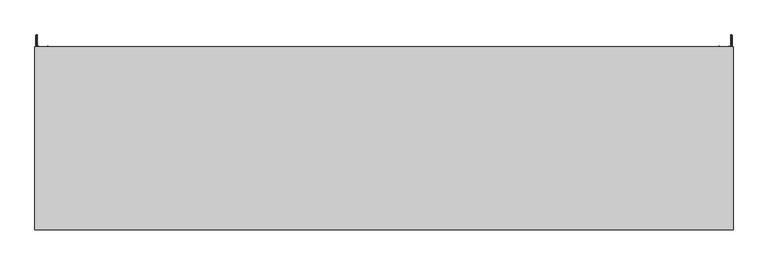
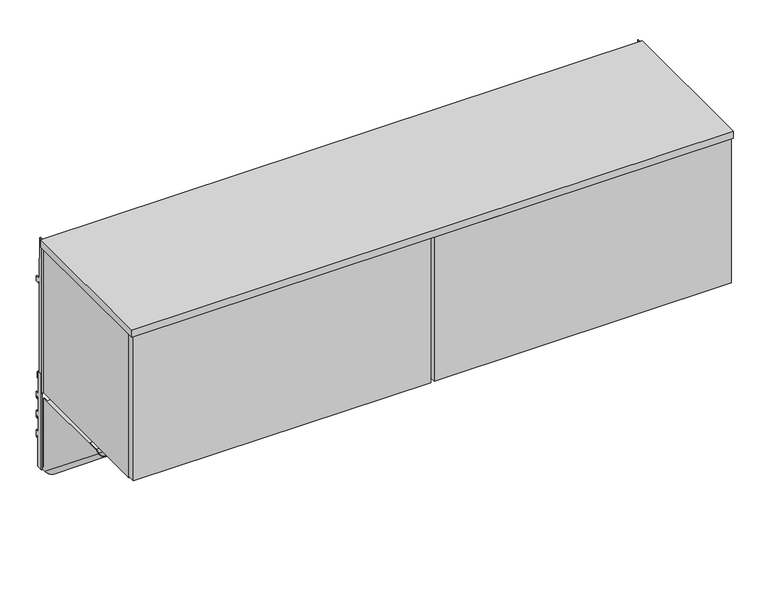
"""IFC4 building model written with IfcOpenShell, lengths in millimetres: furniture geometry, Steelcase - Universal Storage - In the Case Bin - Flat Front : For Montage - 60W."""

from ifc_helpers import new_model, si_unit, point, frame, frame_2d, origin, place, context, project, spatial, polyline, circle_curve, ellipse_curve, trimmed, segment, composite_curve, outline, extrude, faceted_brep, source, transform, mapped, element, save
from ifc_brep_helpers import plane_surface, cylinder_surface, revolved_surface, advanced_brep


def furniture_aaa12805(model_context):
    return source(origin(), model_context, "Body", "SolidModel", [
        extrude(outline(polyline([(14.7026351, 1295.4127), (14.7026351, 1236.5862384), (24.9864881, 1236.5862384), (24.9864881, 1220.7113353), (18.8396885, 1220.7113353), (18.8396885, 1227.061311), (14.7756879, 1227.061311), (14.7756879, 1186.6498969), (24.9864881, 1186.6498969), (24.9864881, 1168.3872762), (18.8396885, 1168.3872762), (18.8396885, 1174.7373246), (14.7756879, 1174.7373246), (14.7756879, 1134.3259105), (24.9864881, 1134.3259105), (24.9864881, 1116.0632897), (21.4050888, 1116.0632897), (21.4050888, 1122.4132655), (17.3410881, 1122.4132655), (17.3410881, 1040.9809), (1.1327479, 1040.9809), (1.1327479, 1295.4127), (14.7026351, 1295.4127)])), frame((2.1844, 0.0, 0.0), z_axis=(1.0, 0.0, 0.0), x_axis=(0.0, 1.0, 0.0)), (0.0, 0.0, 1.0), 1.905),
        extrude(outline(polyline([(14.7026351, 1295.4127), (14.7026351, 1236.5862384), (24.9864881, 1236.5862384), (24.9864881, 1220.7113353), (18.8396885, 1220.7113353), (18.8396885, 1227.061311), (14.7756879, 1227.061311), (14.7756879, 1186.6498969), (24.9864881, 1186.6498969), (24.9864881, 1168.3872762), (18.8396885, 1168.3872762), (18.8396885, 1174.7373246), (14.7756879, 1174.7373246), (14.7756879, 1134.3259105), (24.9864881, 1134.3259105), (24.9864881, 1116.0632897), (21.4050888, 1116.0632897), (21.4050888, 1122.4132655), (17.3410881, 1122.4132655), (17.3410881, 1040.9809), (1.1327479, 1040.9809), (1.1327479, 1295.4127), (14.7026351, 1295.4127)])), frame((1519.9106, 0.0, 0.0), z_axis=(1.0, 0.0, 0.0), x_axis=(0.0, 1.0, 0.0)), (0.0, 0.0, 1.0), 1.905),
        advanced_brep(
        [(1494.9424, -230.0833372, 1233.8431), (1494.9424, 1.1327479, 1046.6079738), (1492.8342, 1.1327479, 1046.6079738), (1492.8342, -230.0833372, 1233.8431), (1492.8342, 1.1327479, 1040.9809), (1492.8342, -7.7654502, 1040.9809), (1492.8342, -240.6555763, 1229.5716381), (1516.1006, -7.7654502, 1040.9809), (1516.1006, -240.6555763, 1229.5716381), (1516.1006, 1.1327479, 1040.9809), (1516.1006, 1.1327479, 1046.6079738), (1516.1006, -3.080512, 1050.019805), (1516.1006, -3.080512, 1233.8431), (1516.1006, -230.0833372, 1233.8431), (1513.9924009, 1.1327479, 1046.6079738), (1513.9924009, -3.080512, 1050.019805), (1513.9924009, -7.7654502, 1040.9809), (1513.9924009, -240.6555763, 1229.5716381), (1513.9924009, -230.0833372, 1233.8431), (1513.9924009, -200.311512, 1233.8431), (1513.9924009, -200.311512, 1233.0049163), (1513.9924009, -14.0787123, 1233.0049163), (1513.9924009, -14.0787123, 1233.8431), (1513.9924009, -3.080512, 1233.8431), (1513.9924009, 1.1327479, 1040.9809), (1494.9424, -7.7654502, 1040.9809), (1494.9424, -240.6555763, 1229.5716381), (1494.9424, 1.1327479, 1040.9809), (1485.0617978, -200.311512, 1233.8431), (1485.0617978, -200.311512, 1252.2581016), (1484.2236, -200.311512, 1252.2581016), (1484.2236, -200.311512, 1233.0049163), (1484.2236, -82.5825138, 1252.2581016), (1485.0617978, -82.5825138, 1252.2581016), (1485.0617978, -82.5825138, 1233.8431), (1484.2236, -82.5825138, 1233.8431), (1484.2236, -14.0787123, 1233.8431), (1484.2236, -14.0787123, 1233.0049163)],
        [
            (0, 1),
            (1, 2),
            (2, 3),
            (3, 0),
            (2, 4),
            (4, 5),
            (5, 6),
            (6, 3),
            (5, 7, ellipse_curve(frame((1504.4674, -7.7654502, 1040.9809), z_axis=(0.0, 0.0, 1.0), x_axis=(0.0, -1.0, 0.0)), 18.4853359, 11.6332)),
            (7, 8),
            (8, 6, ellipse_curve(frame((1504.4674, -240.6555763, 1229.5716381), z_axis=(0.0, 0.374606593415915, -0.9271838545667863), x_axis=(0.0, -0.9271838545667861, -0.3746065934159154)), 13.3008659, 11.6332)),
            (7, 9),
            (9, 10),
            (10, 11),
            (11, 12),
            (12, 13),
            (13, 8),
            (10, 14),
            (14, 15),
            (15, 11),
            (16, 17),
            (17, 18),
            (18, 19),
            (19, 20),
            (20, 21),
            (21, 22),
            (22, 23),
            (23, 15),
            (14, 24),
            (24, 16),
            (16, 25, ellipse_curve(frame((1504.4674005, -7.7654502, 1040.9809), z_axis=(0.0, 0.0, -1.0), x_axis=(0.0, 1.0, 0.0)), 15.135374, 9.5250005)),
            (25, 26),
            (26, 17, ellipse_curve(frame((1504.4674005, -240.6555763, 1229.5716381), z_axis=(0.0, -0.374606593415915, 0.9271838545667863), x_axis=(0.0, 0.9271838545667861, 0.3746065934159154)), 10.8904475, 9.5250005)),
            (0, 26),
            (25, 27),
            (27, 1),
            (13, 18),
            (24, 9),
            (4, 27),
            (28, 29),
            (29, 30),
            (30, 31),
            (31, 20),
            (19, 28),
            (32, 33),
            (33, 34),
            (34, 35),
            (35, 32),
            (35, 36),
            (36, 37),
            (37, 31),
            (30, 32),
            (28, 34),
            (33, 29),
            (36, 22),
            (21, 37),
            (12, 23),
        ],
        [
            plane_surface(frame((1494.9424, -241.2702093, 1242.902052), z_axis=(0.0, 0.6293204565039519, 0.7771459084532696), x_axis=(0.0, 0.7771459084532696, -0.6293204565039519))),
            plane_surface(frame((1492.8342, -241.2702093, 1242.902052), z_axis=(-1.0, 0.0, 0.0), x_axis=(0.0, 0.7771459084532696, -0.6293204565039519))),
            cylinder_surface(frame((1504.4674, 5.728998, 1030.0533094), z_axis=(0.0, -0.7771459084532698, 0.6293204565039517), x_axis=(0.0, 0.6293204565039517, 0.7771459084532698)), 11.6332),
            plane_surface(frame((1516.1006, -247.5463438, 1235.1516726), z_axis=(1.0, 0.0, 0.0), x_axis=(0.0, 0.7771459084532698, -0.6293204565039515))),
            plane_surface(frame((1516.1006, -241.2702093, 1242.902052), z_axis=(0.0, 0.6293204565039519, 0.7771459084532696), x_axis=(0.0, 0.7771459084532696, -0.6293204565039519))),
            plane_surface(frame((1513.9924009, -241.2702093, 1242.902052), z_axis=(-1.0, 0.0, 0.0), x_axis=(0.0, 0.7771459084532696, -0.6293204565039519))),
            revolved_surface(polyline([(1504.4674005, 7.3699238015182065, 1040.980900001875), (1504.4674005, -238.76446812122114, 1240.2966349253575)]), (1504.4674005, 5.728998, 1030.0533094), (0.0, 0.7771459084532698, -0.6293204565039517)),
            plane_surface(frame((1494.9424, -247.5463438, 1235.1516726), z_axis=(1.0, 0.0, 0.0), x_axis=(0.0, 0.7771459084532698, -0.6293204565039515))),
            plane_surface(frame((1524.0, -257.2236519, 1222.8777011), z_axis=(0.0, -0.374606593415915, 0.9271838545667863), x_axis=(-1.0, 0.0, 0.0))),
            plane_surface(frame((1524.0, 1.1327479, 1040.9809), z_axis=(0.0, 0.0, -1.0), x_axis=(-1.0, 0.0, 0.0))),
            plane_surface(frame((1524.0, 1.1327479, 1053.6809), z_axis=(0.0, 1.0, 0.0), x_axis=(-1.0, 0.0, 0.0))),
            plane_surface(frame((1484.2236, -200.311512, 1252.2581016), z_axis=(0.0, -1.0, 0.0), x_axis=(0.0, 0.0, -1.0))),
            plane_surface(frame((1484.2236, -82.5825138, 1252.2581016), z_axis=(0.0, 1.0, 0.0), x_axis=(0.0, 0.0, 1.0))),
            plane_surface(frame((1484.2236, -200.311512, 1252.2581016), z_axis=(-1.0, 0.0, 0.0), x_axis=(0.0, 1.0, 0.0))),
            plane_surface(frame((1485.0617978, -200.311512, 1233.8431), z_axis=(1.0, 0.0, 0.0), x_axis=(0.0, 1.0, 0.0))),
            plane_surface(frame((1485.0617978, -200.311512, 1252.2581016), z_axis=(0.0, 0.0, 1.0), x_axis=(0.0, 1.0, 0.0))),
            plane_surface(frame((1484.2236, -14.0787123, 1233.8431), z_axis=(0.0, 1.0, 0.0), x_axis=(0.0, 0.0, 1.0))),
            plane_surface(frame((1484.2236, -200.311512, 1233.0049163), z_axis=(0.0, 0.0, -1.0), x_axis=(0.0, 1.0, 0.0))),
            plane_surface(frame((1516.1006, -200.311512, 1233.8431), z_axis=(0.0, 0.0, 1.0), x_axis=(0.0, 1.0, 0.0))),
            plane_surface(frame((1516.1006, -3.080512, 1050.019805), z_axis=(0.0, 1.0, 0.0), x_axis=(-1.0, 0.0, 0.0))),
        ],
        [
            (0, [[1, 2, 3, 4]]),
            (1, [[-3, 5, 6, 7, 8]]),
            (2, [[-7, 9, 10, 11]]),
            (3, [[-10, 12, 13, 14, 15, 16, 17]]),
            (4, [[18, 19, 20, -14]]),
            (5, [[21, 22, 23, 24, 25, 26, 27, 28, -19, 29, 30]]),
            (6, [[-21, 31, 32, 33]]),
            (7, [[-1, 34, -32, 35, 36]]),
            (8, [[-4, -8, -11, -17, 37, -22, -33, -34]]),
            (9, [[38, -12, -9, -6, 39, -35, -31, -30]]),
            (10, [[-38, -29, -18, -13]]),
            (10, [[-39, -5, -2, -36]]),
            (11, [[40, 41, 42, 43, -24, 44]]),
            (12, [[45, 46, 47, 48]]),
            (13, [[-48, 49, 50, 51, -42, 52]]),
            (14, [[-40, 53, -46, 54]]),
            (15, [[-41, -54, -45, -52]]),
            (16, [[-50, 55, -26, 56]]),
            (17, [[-51, -56, -25, -43]]),
            (18, [[57, -27, -55, -49, -47, -53, -44, -23, -37, -16]]),
            (19, [[-15, -20, -28, -57]]),
        ],
    ),
        advanced_brep(
        [(8.1026, -3.080512, 1050.019805), (8.1026, -3.080512, 1233.8431), (8.1026, -14.0787123, 1233.8431), (8.1026, -14.0787123, 1233.0049163), (8.1026, -200.311512, 1233.0049163), (8.1026, -200.311512, 1233.8431), (8.1026, -230.0833372, 1233.8431), (8.1026, -240.6555763, 1229.5716381), (8.1026, -7.7654502, 1040.9809), (8.1026, 1.1327479, 1040.9809), (8.1026, 1.1327479, 1046.6079738), (5.9944, -3.080512, 1233.8431), (5.9944, -3.080512, 1050.019805), (5.9944, 1.1327479, 1046.6079738), (5.9944, 1.1327479, 1040.9809), (5.9944, -7.7654502, 1040.9809), (5.9944, -240.6555763, 1229.5716381), (5.9944, -230.0833372, 1233.8431), (39.5732022, -200.311512, 1233.8431), (39.5732022, -82.5825138, 1233.8431), (40.4114, -82.5825138, 1233.8431), (40.4114, -14.0787123, 1233.8431), (29.2608, -7.7654502, 1040.9809), (29.2608, -240.6555763, 1229.5716381), (29.2608, 1.1327479, 1040.9809), (29.2608, 1.1327479, 1046.6079738), (29.2608, -230.0833372, 1233.8431), (27.1526009, 1.1327479, 1046.6079738), (27.1526009, -230.0833372, 1233.8431), (27.1526009, 1.1327479, 1040.9809), (27.1526009, -7.7654502, 1040.9809), (27.1526009, -240.6555763, 1229.5716381), (40.4114, -200.311512, 1233.0049163), (40.4114, -200.311512, 1252.2581016), (39.5732022, -200.311512, 1252.2581016), (40.4114, -14.0787123, 1233.0049163), (40.4114, -82.5825138, 1252.2581016), (39.5732022, -82.5825138, 1252.2581016)],
        [
            (0, 1),
            (1, 2),
            (2, 3),
            (3, 4),
            (4, 5),
            (5, 6),
            (6, 7),
            (7, 8),
            (8, 9),
            (9, 10),
            (10, 0),
            (11, 12),
            (12, 13),
            (13, 14),
            (14, 15),
            (15, 16),
            (16, 17),
            (17, 11),
            (17, 6),
            (5, 18),
            (18, 19),
            (19, 20),
            (20, 21),
            (21, 2),
            (1, 11),
            (0, 12),
            (10, 13),
            (15, 22, ellipse_curve(frame((17.6276, -7.7654502, 1040.9809), z_axis=(0.0, 0.0, 1.0), x_axis=(0.0, -1.0, 0.0)), 18.4853359, 11.6332)),
            (22, 23),
            (23, 16, ellipse_curve(frame((17.6276, -240.6555763, 1229.5716381), z_axis=(0.0, 0.374606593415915, -0.9271838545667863), x_axis=(0.0, -0.9271838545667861, -0.3746065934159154)), 13.3008659, 11.6332)),
            (22, 24),
            (24, 25),
            (25, 26),
            (26, 23),
            (25, 27),
            (27, 28),
            (28, 26),
            (27, 29),
            (29, 30),
            (30, 31),
            (31, 28),
            (7, 31, ellipse_curve(frame((17.6276005, -240.6555763, 1229.5716381), z_axis=(0.0, -0.374606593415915, 0.9271838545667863), x_axis=(0.0, 0.9271838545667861, 0.3746065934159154)), 10.8904475, 9.5250005)),
            (30, 8, ellipse_curve(frame((17.6276005, -7.7654502, 1040.9809), z_axis=(0.0, 0.0, -1.0), x_axis=(0.0, 1.0, 0.0)), 15.135374, 9.5250005)),
            (14, 9),
            (29, 24),
            (4, 32),
            (32, 33),
            (33, 34),
            (34, 18),
            (21, 35),
            (35, 3),
            (35, 32),
            (20, 36),
            (36, 33),
            (19, 37),
            (37, 36),
            (37, 34),
        ],
        [
            plane_surface(frame((8.1026, -230.0833372, 1233.8431), z_axis=(1.0, 0.0, 0.0), x_axis=(0.0, -1.0, 0.0))),
            plane_surface(frame((5.9944, -230.0833372, 1233.8431), z_axis=(-1.0, 0.0, 0.0), x_axis=(0.0, 1.0, 0.0))),
            plane_surface(frame((8.1026, -3.080512, 1233.8431), z_axis=(0.0, 0.0, 1.0), x_axis=(-1.0, 0.0, 0.0))),
            plane_surface(frame((8.1026, -3.080512, 1050.019805), z_axis=(0.0, 1.0, 0.0), x_axis=(-1.0, 0.0, 0.0))),
            plane_surface(frame((8.1026, -241.2702093, 1242.902052), z_axis=(0.0, 0.6293204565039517, 0.7771459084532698), x_axis=(0.0, 0.7771459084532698, -0.6293204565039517))),
            cylinder_surface(frame((17.6276, 5.728998, 1030.0533094), z_axis=(0.0, -0.7771459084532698, 0.6293204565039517), x_axis=(1.0, 0.0, 0.0)), 11.6332),
            plane_surface(frame((29.2608, -247.5463438, 1235.1516726), z_axis=(1.0000000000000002, 0.0, 0.0), x_axis=(0.0, 0.7771459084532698, -0.6293204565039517))),
            plane_surface(frame((29.2608, -241.2702093, 1242.902052), z_axis=(0.0, 0.6293204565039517, 0.7771459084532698), x_axis=(0.0, 0.7771459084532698, -0.6293204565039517))),
            plane_surface(frame((27.1526009, -241.2702093, 1242.902052), z_axis=(-1.0000000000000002, 0.0, 0.0), x_axis=(0.0, 0.7771459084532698, -0.6293204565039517))),
            revolved_surface(polyline([(27.152601, 1.375646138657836, 1033.5785848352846), (27.152601, -244.75874578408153, 1232.8943197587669)]), (17.6276005, 5.728998, 1030.0533094), (0.0, 0.7771459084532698, -0.6293204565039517)),
            plane_surface(frame((1524.0, -257.2236519, 1222.8777011), z_axis=(0.0, -0.374606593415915, 0.9271838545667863), x_axis=(-1.0, 0.0, 0.0))),
            plane_surface(frame((1524.0, 1.1327479, 1040.9809), z_axis=(0.0, 0.0, -1.0), x_axis=(-1.0, 0.0, 0.0))),
            plane_surface(frame((1524.0, 1.1327479, 1053.6809), z_axis=(0.0, 1.0, 0.0), x_axis=(-1.0, 0.0, 0.0))),
            plane_surface(frame((10.5986151, -200.311512, 1233.8431), z_axis=(0.0, -1.0, 0.0), x_axis=(-1.0, 0.0, 0.0))),
            plane_surface(frame((10.5986151, -14.0787123, 1233.8431), z_axis=(0.0, 1.0, 0.0), x_axis=(1.0, 0.0, 0.0))),
            plane_surface(frame((8.1026, -200.311512, 1233.0049163), z_axis=(0.0, 0.0, -1.0), x_axis=(0.0, 1.0, 0.0))),
            plane_surface(frame((40.4114, -200.311512, 1233.0049163), z_axis=(1.0, 0.0, 0.0), x_axis=(0.0, 1.0, 0.0))),
            plane_surface(frame((38.1509305, -82.5825138, 1252.2581016), z_axis=(0.0, 1.0, 0.0), x_axis=(1.0, 0.0, 0.0))),
            plane_surface(frame((40.4114, -200.311512, 1252.2581016), z_axis=(0.0, 0.0, 1.0), x_axis=(0.0, 1.0, 0.0))),
            plane_surface(frame((39.5732022, -200.311512, 1252.2581016), z_axis=(-1.0, 0.0, 0.0), x_axis=(0.0, 1.0, 0.0))),
        ],
        [
            (0, [[1, 2, 3, 4, 5, 6, 7, 8, 9, 10, 11]]),
            (1, [[12, 13, 14, 15, 16, 17, 18]]),
            (2, [[-18, 19, -6, 20, 21, 22, 23, 24, -2, 25]]),
            (3, [[-1, 26, -12, -25]]),
            (4, [[-26, -11, 27, -13]]),
            (5, [[-16, 28, 29, 30]]),
            (6, [[-29, 31, 32, 33, 34]]),
            (7, [[-33, 35, 36, 37]]),
            (8, [[-36, 38, 39, 40, 41]]),
            (9, [[-8, 42, -40, 43]]),
            (10, [[-7, -19, -17, -30, -34, -37, -41, -42]]),
            (11, [[44, -9, -43, -39, 45, -31, -28, -15]]),
            (12, [[-44, -14, -27, -10]]),
            (12, [[-45, -38, -35, -32]]),
            (13, [[46, 47, 48, 49, -20, -5]]),
            (14, [[50, 51, -3, -24]]),
            (15, [[-46, -4, -51, 52]]),
            (16, [[-47, -52, -50, -23, 53, 54]]),
            (17, [[-53, -22, 55, 56]]),
            (18, [[-48, -54, -56, 57]]),
            (19, [[-49, -57, -55, -21]]),
        ],
    ),
        faceted_brep([(1505.0516023, -9.7789998, 1640.3955), (1505.0516023, -9.7789998, 1652.2572326), (1505.0516023, -10.6172003, 1652.2572326), (1505.0516023, -10.6172003, 1639.557281), (1505.0516023, -0.8382, 1639.557281), (1505.0516023, -0.8382266, 1640.3955), (17.0434001, -9.7789998, 1640.3955), (17.0434001, -0.8382, 1640.3955), (17.0434001, -0.8382011, 1639.557281), (17.0434001, -10.6172003, 1639.557281), (17.0434001, -10.6172003, 1652.2572326), (17.0434001, -9.7789998, 1652.2572326), (1507.6837557, -30.9238769, 1640.3955), (1508.5187599, -30.850824, 1640.3955), (1505.8930117, -0.8382, 1640.3955), (1519.9106, -0.8382, 1640.3955), (1519.9106, 0.1784978, 1640.3955), (2.1844, 0.1784978, 1640.3955), (2.1844, -0.8382, 1640.3955), (16.2019988, -0.8382, 1640.3955), (13.5762335, -30.850824, 1640.3955), (14.4176356, -30.850824, 1640.3955), (1519.9106, 0.1784978, 1247.9655), (1519.9106, -0.8382, 1247.9655), (1505.8930117, -0.8382, 1247.9655), (1508.5187599, -30.850824, 1247.9655), (1507.6837557, -30.9238769, 1247.9655), (1505.0516, -0.8382, 1247.9655), (17.0434002, -0.8382, 1247.9655), (14.4176356, -30.850824, 1247.9655), (13.5762335, -30.850824, 1247.9655), (16.2019988, -0.8382, 1247.9655), (2.1844, -0.8382, 1247.9655), (2.1844, 0.1784978, 1247.9655)], [[[0, 1, 2, 3, 4, 5]], [[6, 7, 8, 9, 10, 11]], [[1, 0, 6, 11]], [[2, 1, 11, 10]], [[3, 2, 10, 9]], [[4, 3, 9, 8]], [[0, 5, 12, 13, 14, 15, 16, 17, 18, 19, 20, 21, 7, 6]], [[22, 23, 24, 25, 26, 27, 28, 29, 30, 31, 32, 33]], [[17, 16, 22, 33]], [[18, 17, 33, 32]], [[19, 18, 32, 31]], [[20, 19, 31, 30]], [[21, 20, 30, 29]], [[7, 21, 29, 28, 8]], [[28, 27, 4, 8]], [[12, 5, 4, 27, 26]], [[13, 12, 26, 25]], [[14, 13, 25, 24]], [[15, 14, 24, 23]], [[16, 15, 23, 22]]]),
        faceted_brep([(1488.5415999, -61.4680004, 1256.4236903), (1488.5415999, -61.4680004, 1248.8037), (1488.5415999, -60.6298021, 1248.8037), (1488.5415999, -60.6298021, 1256.4236903), (33.5534002, -61.4680004, 1256.4236903), (33.5534002, -60.6298021, 1256.4236903), (33.5534002, -60.6298021, 1248.8037), (33.5534002, -61.468, 1248.8037), (17.0434001, -61.4680004, 1248.8037), (17.0434001, -61.4680004, 1247.9655), (1505.0516023, -61.4680004, 1247.9655), (1505.0516023, -61.4680004, 1248.8037), (1505.0516023, -0.8382, 1247.9655), (1505.0516023, -0.8382, 1248.8037), (17.0434001, -0.8382, 1248.8037), (17.0434001, -0.8382, 1247.9655)], [[[0, 1, 2, 3]], [[4, 5, 6, 7]], [[1, 0, 4, 7, 8, 9, 10, 11]], [[3, 2, 6, 5]], [[0, 3, 5, 4]], [[11, 10, 12, 13]], [[8, 14, 15, 9]], [[12, 10, 9, 15]], [[13, 12, 15, 14]], [[11, 13, 14, 8, 7, 6, 2, 1]]]),
        extrude(outline(composite_curve([segment(polyline([(-343.4401318, 1291.8437595), (-377.213238, 1291.8437595), (-377.213238, 1639.09375), (-30.850824, 1639.09375), (-30.850824, 1638.0577444), (-372.9486617, 1638.0577444)]), True, "CONTINUOUS"), segment(trimmed(circle_curve(frame_2d((-372.9486617, 1635.1839261)), 2.8738183), [point((-372.9486617, 1638.0577444))], [point((-375.82248, 1635.1839261))], True, "CARTESIAN"), True, "CONTINUOUS"), segment(polyline([(-375.82248, 1635.1839261), (-375.82248, 1292.9867129), (-343.4401318, 1292.9867129), (-343.4401318, 1291.8437595)]), True, "CONTINUOUS")], self_intersect=False)), frame((753.7266311, 0.0, 0.0), z_axis=(1.0, 0.0, 0.0), x_axis=(0.0, 1.0, 0.0)), (0.0, 0.0, 1.0), 16.5467378),
        extrude(outline(polyline([(1524.0, -399.4977324), (0.0, -399.4977324), (0.0, 0.0), (1524.0, 0.0), (1524.0, -399.4977324)])), frame((0.0, 0.0, 1639.490625), z_axis=(0.0, 0.0, 1.0), x_axis=(1.0, 0.0, 0.0)), (0.0, 0.0, 1.0), 19.05),
        extrude(outline(polyline([(4.4448587, -378.8585852), (757.428, -378.8585852), (757.428, -399.0261526), (4.4448587, -399.0261526), (4.4448587, -378.8585852)])), frame((0.0, 0.0, 1253.2134107), z_axis=(0.0, 0.0, 1.0), x_axis=(1.0, 0.0, 0.0)), (0.0, 0.0, 1.0), 386.3690475),
        extrude(outline(polyline([(766.572, -378.8585852), (1519.5703, -378.8585852), (1519.5703, -399.0261526), (766.572, -399.0261526), (766.572, -378.8585852)])), frame((0.0, 0.0, 1253.2134107), z_axis=(0.0, 0.0, 1.0), x_axis=(1.0, 0.0, 0.0)), (0.0, 0.0, 1.0), 386.3690475),
        extrude(outline(polyline([(0.0, 1657.096), (10.1677703, 1657.096), (13.3857995, 1545.8185744), (26.0095997, 1545.8185744), (26.0095997, 1532.1025512), (17.5768, 1532.1025512), (17.5768, 1537.1064608), (13.3349998, 1537.1064608), (13.3349998, 1522.6538546), (14.2747998, 1522.6538546), (14.2747998, 1296.0858527), (17.2466001, 1296.0858527), (17.2466001, 1289.7358043), (22.5806007, 1289.7358043), (22.5806007, 1274.2164027), (0.0, 1274.2164027), (0.0, 1657.096)])), frame((1518.4882, 0.0, 0.0), z_axis=(1.0, 0.0, 0.0), x_axis=(0.0, 1.0, 0.0)), (0.0, 0.0, 1.0), 1.905),
        extrude(outline(polyline([(15.875, -377.213238), (5.5118, -377.213238), (5.5118, 0.0), (15.875, 0.0), (15.875, -377.213238)])), frame((0.0, 0.0, 1247.9655), z_axis=(0.0, 0.0, 1.0), x_axis=(1.0, 0.0, 0.0)), (0.0, 0.0, 1.0), 391.2710707),
        extrude(outline(polyline([(1522.8568665, -377.213238), (1508.125, -377.213238), (1508.125, 0.0), (1522.8568665, 0.0), (1522.8568665, -377.213238)])), frame((0.0, 0.0, 1247.9655), z_axis=(0.0, 0.0, 1.0), x_axis=(1.0, 0.0, 0.0)), (0.0, 0.0, 1.0), 391.2710707),
        extrude(outline(polyline([(0.0, 1657.096), (10.1677703, 1657.096), (13.3857995, 1545.8185744), (26.0095997, 1545.8185744), (26.0095997, 1532.1025512), (17.5768, 1532.1025512), (17.5768, 1537.1064608), (13.3349998, 1537.1064608), (13.3349998, 1522.6538546), (14.2747998, 1522.6538546), (14.2747998, 1296.0858527), (17.2466001, 1296.0858527), (17.2466001, 1289.7358043), (22.5806007, 1289.7358043), (22.5806007, 1274.2164027), (0.0, 1274.2164027), (0.0, 1657.096)])), frame((3.6068, 0.0, 0.0), z_axis=(1.0, 0.0, 0.0), x_axis=(0.0, 1.0, 0.0)), (0.0, 0.0, 1.0), 1.905),
        extrude(outline(polyline([(-35.4584098, 1372.819257), (-27.0763996, 1372.819257), (-27.0763996, 1360.1191601), (-33.4264117, 1360.1191601), (-33.4264117, 1323.1622589), (-27.0763996, 1323.1622589), (-27.0763996, 1265.428), (-35.4584098, 1265.428), (-35.4584098, 1293.054213), (-46.1263996, 1293.054213), (-46.1263996, 1268.1875622), (-59.9694137, 1268.1875622), (-59.9694137, 1294.8575912), (-332.8542818, 1294.8575912), (-332.8542818, 1268.1875622), (-377.3042823, 1268.1875622), (-377.3042823, 1310.7072052), (-35.4584098, 1310.7072052), (-35.4584098, 1372.819257)])), frame((15.875, 0.0, 0.0), z_axis=(1.0, 0.0, 0.0), x_axis=(0.0, 1.0, 0.0)), (0.0, 0.0, 1.0), 1492.25),
    ])


if __name__ == "__main__":
    model = new_model("IFC4")
    model_context = context("Model", 3, world=origin())
    ifc_project = project(units=[si_unit("LENGTHUNIT", "METRE", prefix="MILLI")], contexts=[model_context])
    site = spatial("IfcSite", under=ifc_project)
    building = spatial("IfcBuilding", under=site)
    placement = place(None, origin())
    furniture_shape = furniture_aaa12805(model_context)
    element("IfcFurniture", 1, ObjectType="Steelcase - Universal Storage - In the Case Bin - Flat Front : For Montage - 60W", at=placement, inside=building, context=model_context, shape_type="MappedRepresentation", body=[
        mapped(furniture_shape, transform((0.0, 0.0, 0.0), x_axis=(1.0, 0.0, 0.0), y_axis=(0.0, 1.0, 0.0), z_axis=(0.0, 0.0, 1.0))),
    ])
    save(model, "model.ifc")
